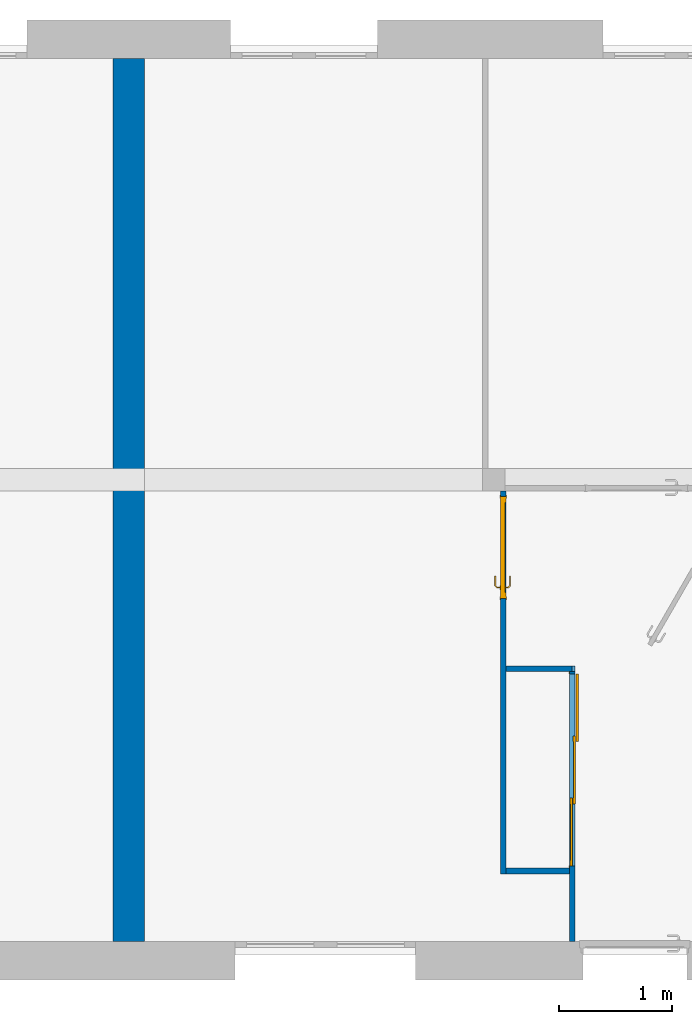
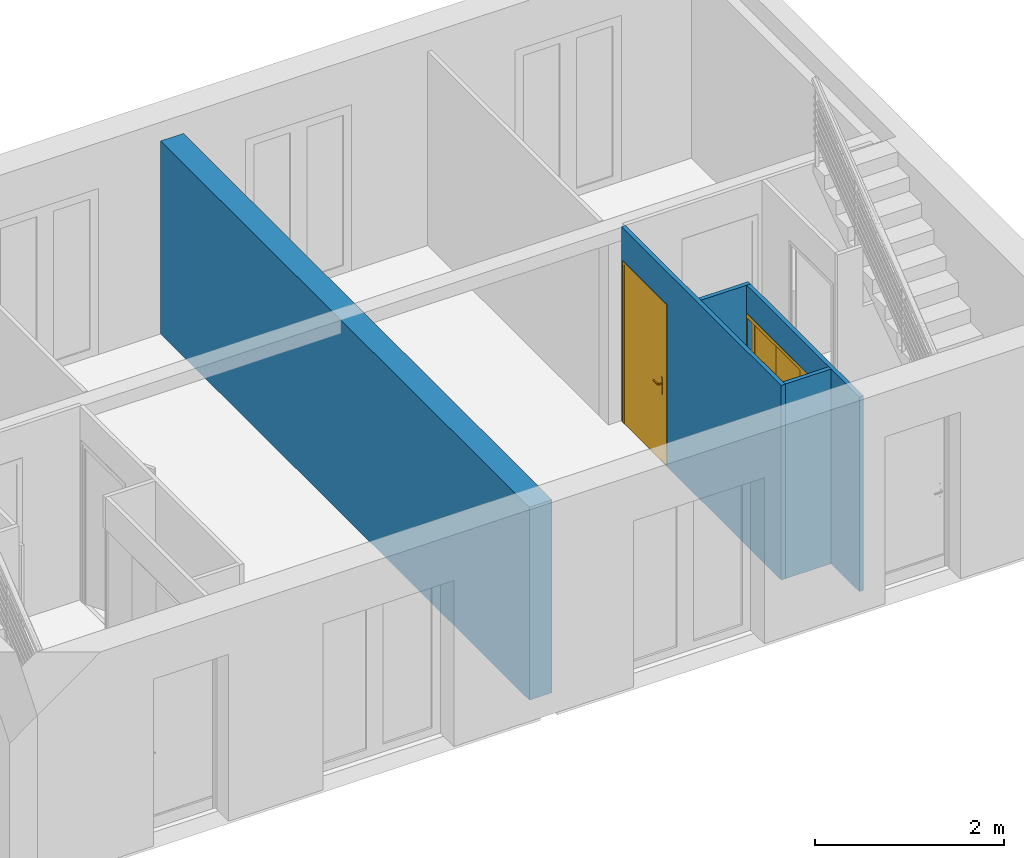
# One storey, part 3 of 9: 5 walls, 2 doors, 3 openings.
"""IFC2X3 building model written with IfcOpenShell, lengths in metres."""

from ifc_helpers import new_model, entity, si_unit, converted_unit, derived_unit, direction, frame, frame_2d, origin, origin_2d_with_axis, place, context, subcontext, project, spatial, polyline, circle_curve, parameter, trimmed, segment, composite_curve, rectangle, outline, extrude, faceted_brep, source, transform, mapped, material, material_list, layer, layer_set, layer_usage, type_object, type_shapes, element, fill, save


model = new_model("IFC2X3")

# Units and contexts
model_context = context("Model", 3, precision=1e-05, world=origin(), true_north=direction((6.12303176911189e-17, 1.0)))
body_context = subcontext(model_context, "Body", "Model", "MODEL_VIEW")
ifc_project = project(units=[si_unit("LENGTHUNIT", "METRE"), si_unit("AREAUNIT", "SQUARE_METRE"), si_unit("VOLUMEUNIT", "CUBIC_METRE"), converted_unit("PLANEANGLEUNIT", "DEGREE", entity("IfcRatioMeasure", 0.0174532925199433), si_unit("PLANEANGLEUNIT", "RADIAN"), dimensions=[0, 0, 0, 0, 0, 0, 0]), si_unit("MASSUNIT", "GRAM", prefix="KILO"), si_unit("TIMEUNIT", "SECOND"), si_unit("FREQUENCYUNIT", "HERTZ"), si_unit("THERMODYNAMICTEMPERATUREUNIT", "DEGREE_CELSIUS"), derived_unit("THERMALTRANSMITTANCEUNIT", [(si_unit("MASSUNIT", "GRAM", prefix="KILO"), 1), (si_unit("THERMODYNAMICTEMPERATUREUNIT", "KELVIN"), -1), (si_unit("TIMEUNIT", "SECOND"), -3)]), derived_unit("VOLUMETRICFLOWRATEUNIT", [(si_unit("LENGTHUNIT", "METRE"), 3), (si_unit("TIMEUNIT", "SECOND"), -1)]), si_unit("ELECTRICCURRENTUNIT", "AMPERE"), si_unit("ELECTRICVOLTAGEUNIT", "VOLT"), si_unit("POWERUNIT", "WATT"), si_unit("FORCEUNIT", "NEWTON", prefix="KILO"), si_unit("ILLUMINANCEUNIT", "LUX"), si_unit("LUMINOUSFLUXUNIT", "LUMEN"), si_unit("LUMINOUSINTENSITYUNIT", "CANDELA"), derived_unit("USERDEFINED", [(si_unit("MASSUNIT", "GRAM", prefix="KILO"), -1), (si_unit("LENGTHUNIT", "METRE"), -2), (si_unit("TIMEUNIT", "SECOND"), 3), (si_unit("LUMINOUSFLUXUNIT", "LUMEN"), 1)]), derived_unit("LINEARVELOCITYUNIT", [(si_unit("LENGTHUNIT", "METRE"), 1), (si_unit("TIMEUNIT", "SECOND"), -1)]), si_unit("PRESSUREUNIT", "PASCAL"), derived_unit("USERDEFINED", [(si_unit("LENGTHUNIT", "METRE"), -2), (si_unit("MASSUNIT", "GRAM", prefix="KILO"), 1), (si_unit("TIMEUNIT", "SECOND"), -2)])], contexts=[model_context])

# Site, building, storey
site_placement = place(None, origin())
site = spatial("IfcSite", under=ifc_project, at=site_placement, Name="Surface", CompositionType="ELEMENT")
building_placement = place(site_placement, origin())
building = spatial("IfcBuilding", under=site, at=building_placement, CompositionType="ELEMENT")
storey_placement = place(building_placement, origin())
storey = spatial("IfcBuildingStorey", under=building, at=storey_placement, Name="Rez de chaussée", CompositionType="ELEMENT", Elevation=0.0)

# Wall, opening
ifc_material_1 = material(Name="Maçonnerie - Isolant(1)")
ifc_layer_1 = layer(ifc_material_1, 0.05)
ifc_layer_set_1 = layer_set([ifc_layer_1], Name="Mur de base:Int. plâtre 50 mm")
ifc_layer_usage_1 = layer_usage(ifc_layer_set_1, "AXIS2", "NEGATIVE", 0.025)
wall_type_1 = type_object("IfcWallType", Name="Mur de base:Int. plâtre 50 mm", PredefinedType="STANDARD", material=ifc_layer_set_1)
wall_1_placement = place(storey_placement, frame((-0.986088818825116, -0.0607442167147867, -0.00999999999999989), z_axis=(0.0, 0.0, 1.0), x_axis=(-1.0, 0.0, 0.0)))
wall_1 = element("IfcWallStandardCase", 1, at=wall_1_placement, inside=storey, type_object=wall_type_1, material=ifc_layer_usage_1, Name="Mur de base:Int. plâtre 50 mm", ObjectType="Mur de base:Int. plâtre 50 mm", context=body_context, shape_type="SweptSolid", body=[
    extrude(rectangle(XDim=0.610000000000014, YDim=0.05, at=frame_2d((0.305000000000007, 5.20417042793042e-18), x_axis=(-1.0, 0.0))), origin(), (0.0, 0.0, 1.0), 2.52),
])
opening_1_placement = place(wall_1_placement, origin())
element("IfcOpeningElement", 2, at=opening_1_placement, cuts=wall_1, Name="Mur de base:Int. plâtre 50 mm", ObjectType="Opening", context=body_context, shape_type="SweptSolid", body=[
    extrude(rectangle(XDim=2.09999999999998, YDim=0.0250000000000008, at=origin_2d_with_axis()), frame((0.0125000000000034, -0.025, 1.05999999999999), z_axis=(0.0, 1.0, 0.0), x_axis=(0.0, 0.0, -1.0)), (0.0, 0.0, 1.0), 0.05),
])

# Wall, opening, door
ifc_layer_usage_2 = layer_usage(ifc_layer_set_1, "AXIS2", "NEGATIVE", 0.025)
wall_2_placement = place(storey_placement, frame((-1.62108881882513, -1.87574421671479, -0.00999999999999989), z_axis=(0.0, 0.0, 1.0), x_axis=(0.0, 1.0, 0.0)))
wall_2 = element("IfcWallStandardCase", 3, at=wall_2_placement, inside=storey, type_object=wall_type_1, material=ifc_layer_usage_2, Name="Mur de base:Int. plâtre 50 mm", ObjectType="Mur de base:Int. plâtre 50 mm", context=body_context, shape_type="SweptSolid", body=[
    extrude(rectangle(XDim=3.39, YDim=0.05, at=frame_2d((1.695, 0.0), x_axis=(-1.0, 0.0))), origin(), (0.0, 0.0, 1.0), 2.52),
])
opening_2_placement = place(wall_2_placement, frame((2.44000000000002, -0.025, 0.00999999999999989)))
opening_2 = element("IfcOpeningElement", 4, at=opening_2_placement, cuts=wall_2, Name="Int. Simple:PP (0.83m x 2.04m):1", ObjectType="Opening", context=body_context, shape_type="SweptSolid", body=[
    extrude(rectangle(XDim=2.075, YDim=0.9, at=frame_2d((1.0375, 0.45), x_axis=(1.0, 0.0))), frame((0.0, 0.0, 0.0), z_axis=(0.0, 1.0, 0.0), x_axis=(0.0, 0.0, 1.0)), (0.0, 0.0, 1.0), 0.05),
])
ifc_material_2 = material(Name="Finition Peinture - Blanc satiné")
ifc_material_3 = material(Name="Bois - Panneau de porte")
ifc_material_4 = material(Name="Bois - Cadre de porte")
ifc_material_list_1 = material_list([ifc_material_2, ifc_material_3, ifc_material_4])
ifc_material_list_2 = material_list([ifc_material_2, ifc_material_3, ifc_material_4])
door_style_1 = type_object("IfcDoorStyle", Name="PP (0.83m x 2.04m)", ConstructionType="NOTDEFINED", OperationType="SINGLE_SWING_RIGHT", ParameterTakesPrecedence=False, Sizeable=False, material=ifc_material_list_2)
shared_shape_1 = source(origin(), body_context, "Body", "Brep", [
    faceted_brep([(0.895000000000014, -0.00500000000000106, 0.870000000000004), (0.895000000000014, -0.00500000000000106, 1.08), (0.885352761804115, -0.00500000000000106, 1.08399601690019), (0.875000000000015, -0.00500000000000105, 1.08535898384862), (0.864647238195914, -0.00500000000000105, 1.08399601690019), (0.855000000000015, -0.00500000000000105, 1.08), (0.855000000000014, -0.00500000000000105, 0.870000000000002), (0.864647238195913, -0.00500000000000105, 0.866003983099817), (0.875000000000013, -0.00500000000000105, 0.86464101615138), (0.885352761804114, -0.00500000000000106, 0.866003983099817), (0.895000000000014, 0.0, 1.08), (0.895000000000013, 0.0, 0.870000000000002), (0.885352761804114, 0.0, 0.866003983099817), (0.875000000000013, 0.0, 0.86464101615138), (0.864647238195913, 0.0, 0.866003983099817), (0.855000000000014, 0.0, 0.870000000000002), (0.855000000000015, 0.0, 1.08), (0.864647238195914, 0.0, 1.08399601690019), (0.875000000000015, 0.0, 1.08535898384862), (0.885352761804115, 0.0, 1.08399601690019)], [[[0, 1, 2, 3, 4, 5, 6, 7, 8, 9]], [[10, 11, 12, 13, 14, 15, 16, 17, 18, 19]], [[9, 12, 11, 0]], [[8, 13, 12, 9]], [[7, 14, 13, 8]], [[7, 6, 15, 14]], [[15, 6, 5, 16]], [[4, 17, 16, 5]], [[3, 18, 17, 4]], [[2, 19, 18, 3]], [[2, 1, 10, 19]], [[11, 10, 1, 0]]]),
    faceted_brep([(0.895000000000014, 0.0399999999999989, 0.870000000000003), (0.895000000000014, 0.0399999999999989, 1.08), (0.885352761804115, 0.0399999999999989, 1.08399601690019), (0.875000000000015, 0.0399999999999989, 1.08535898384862), (0.864647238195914, 0.0399999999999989, 1.08399601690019), (0.855000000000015, 0.0399999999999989, 1.08), (0.855000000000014, 0.0399999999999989, 0.870000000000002), (0.864647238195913, 0.0399999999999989, 0.866003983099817), (0.875000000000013, 0.0399999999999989, 0.86464101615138), (0.885352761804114, 0.0399999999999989, 0.866003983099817), (0.875000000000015, 0.0449999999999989, 1.08535898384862), (0.885352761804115, 0.0449999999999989, 1.08399601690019), (0.895000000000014, 0.0449999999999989, 1.08), (0.895000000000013, 0.0449999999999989, 0.870000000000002), (0.885352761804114, 0.0449999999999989, 0.866003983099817), (0.875000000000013, 0.0449999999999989, 0.86464101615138), (0.864647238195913, 0.0449999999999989, 0.866003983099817), (0.855000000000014, 0.0449999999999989, 0.870000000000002), (0.855000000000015, 0.0449999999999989, 1.08), (0.864647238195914, 0.0449999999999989, 1.08399601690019)], [[[0, 1, 2, 3, 4, 5, 6, 7, 8, 9]], [[10, 11, 12, 13, 14, 15, 16, 17, 18, 19]], [[4, 19, 18, 5]], [[3, 10, 19, 4]], [[2, 11, 10, 3]], [[2, 1, 12, 11]], [[13, 12, 1, 0]], [[9, 14, 13, 0]], [[8, 15, 14, 9]], [[7, 16, 15, 8]], [[7, 6, 17, 16]], [[17, 6, 5, 18]]]),
    faceted_brep([(0.872974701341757, -0.0050000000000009, 1.00778044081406), (0.877025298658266, -0.00500000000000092, 1.00778044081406), (0.881000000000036, -0.00500000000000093, 1.00699999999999), (0.881000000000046, -0.00500000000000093, 0.992999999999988), (0.877025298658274, -0.00500000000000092, 0.99221955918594), (0.872974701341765, -0.0050000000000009, 0.992219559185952), (0.868999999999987, -0.00500000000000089, 0.993000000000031), (0.868999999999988, -0.00500000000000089, 1.007), (0.877025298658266, -0.0310045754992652, 1.00778044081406), (0.881000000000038, -0.0326509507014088, 1.007), (0.872974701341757, -0.0293267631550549, 1.00778044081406), (0.859298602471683, -0.0430028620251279, 1.00778044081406), (0.860976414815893, -0.0470534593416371, 1.00778044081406), (0.868999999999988, -0.0276803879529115, 1.007), (0.868999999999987, -0.0276803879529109, 0.993000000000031), (0.872974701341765, -0.0293267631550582, 0.992219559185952), (0.877025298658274, -0.0310045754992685, 0.99221955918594), (0.860976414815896, -0.047053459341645, 0.99221955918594), (0.859298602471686, -0.0430028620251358, 0.992219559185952), (0.881000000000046, -0.0326509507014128, 0.992999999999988), (0.862622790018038, -0.0510281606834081, 1.007), (0.85765222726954, -0.0390281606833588, 1.007), (0.857652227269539, -0.0390281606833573, 0.993000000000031), (0.862622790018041, -0.0510281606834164, 0.992999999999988), (0.774981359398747, -0.0510281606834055, 1.007), (0.774981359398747, -0.0470534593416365, 1.00778044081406), (0.774981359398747, -0.0430028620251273, 1.00778044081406), (0.774981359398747, -0.0390281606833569, 1.00699999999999), (0.774981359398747, -0.0390281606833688, 0.993000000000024), (0.774981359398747, -0.0430028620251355, 0.992219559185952), (0.774981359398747, -0.0470534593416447, 0.99221955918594), (0.774981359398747, -0.0510281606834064, 0.992999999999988), (0.81713998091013, -0.045028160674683, 1.0078786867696), (0.822692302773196, -0.051028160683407, 1.007), (0.816316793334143, -0.039028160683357, 1.007), (0.816316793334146, -0.0390281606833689, 0.993000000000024), (0.817139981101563, -0.0450281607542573, 0.992121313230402), (0.822692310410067, -0.0510281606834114, 0.992999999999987)], [[[0, 1, 2, 3, 4, 5, 6, 7]], [[2, 1, 8, 9]], [[1, 0, 10, 11, 12, 8]], [[0, 7, 13, 10]], [[14, 13, 7, 6]], [[5, 15, 14, 6]], [[5, 4, 16, 17, 18, 15]], [[3, 19, 16, 4]], [[9, 19, 3, 2]], [[9, 8, 12, 20]], [[10, 13, 21, 11]], [[22, 21, 13, 14]], [[14, 15, 18, 22]], [[16, 19, 23, 17]], [[20, 23, 19, 9]], [[24, 25, 26, 27, 28, 29, 30, 31]], [[32, 25, 33]], [[33, 25, 24]], [[33, 20, 12]], [[11, 34, 32]], [[34, 11, 21]], [[27, 26, 34]], [[32, 26, 25]], [[32, 34, 26]], [[32, 33, 12]], [[11, 32, 12]], [[21, 22, 35, 28, 27, 34]], [[36, 29, 35]], [[30, 36, 37]], [[18, 35, 22]], [[29, 28, 35]], [[30, 37, 31]], [[37, 17, 23]], [[36, 17, 37]], [[36, 18, 17]], [[36, 35, 18]], [[29, 36, 30]], [[23, 20, 33, 24, 31, 37]]]),
    faceted_brep([(0.872974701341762, 0.0449999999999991, 0.992219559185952), (0.877025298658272, 0.0449999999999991, 0.99221955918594), (0.881000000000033, 0.044999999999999, 0.992999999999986), (0.881000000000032, 0.044999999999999, 1.007), (0.877025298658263, 0.0449999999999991, 1.00778044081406), (0.872974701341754, 0.0449999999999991, 1.00778044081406), (0.868999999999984, 0.0449999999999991, 1.007), (0.868999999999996, 0.0449999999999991, 0.993000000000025), (0.868999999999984, 0.067485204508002, 1.007), (0.868999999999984, 0.0674852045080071, 0.993000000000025), (0.872974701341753, 0.0691315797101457, 1.00778044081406), (0.877025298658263, 0.070809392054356, 1.00778044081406), (0.860838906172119, 0.0869957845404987, 1.00778044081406), (0.859161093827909, 0.0829451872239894, 1.00778044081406), (0.881000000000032, 0.0724557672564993, 1.007), (0.881000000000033, 0.0724557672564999, 0.992999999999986), (0.877025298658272, 0.0708093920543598, 0.99221955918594), (0.872974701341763, 0.0691315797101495, 0.992219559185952), (0.859161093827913, 0.0829451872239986, 0.992219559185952), (0.860838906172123, 0.0869957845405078, 0.99221955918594), (0.857514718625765, 0.0789704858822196, 1.007), (0.857514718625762, 0.0789704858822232, 0.993000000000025), (0.862485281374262, 0.0909704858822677, 1.007), (0.862485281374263, 0.0909704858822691, 0.992999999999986), (0.77495421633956, 0.0829451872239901, 1.00778044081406), (0.77495421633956, 0.0869957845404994, 1.00778044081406), (0.77495421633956, 0.0909704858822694, 1.007), (0.77495421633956, 0.0909704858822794, 0.992999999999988), (0.77495421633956, 0.086995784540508, 0.99221955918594), (0.77495421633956, 0.0829451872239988, 0.992219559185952), (0.77495421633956, 0.0789704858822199, 0.993000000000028), (0.77495421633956, 0.0789704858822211, 1.007), (0.816234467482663, 0.0789704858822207, 1.007), (0.816234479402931, 0.0789704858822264, 0.993000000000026), (0.817057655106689, 0.0849704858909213, 1.0078786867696), (0.822554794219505, 0.0909704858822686, 1.007), (0.822554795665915, 0.0909704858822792, 0.992999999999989), (0.817057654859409, 0.0849704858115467, 0.992121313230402)], [[[0, 1, 2, 3, 4, 5, 6, 7]], [[8, 9, 7, 6]], [[5, 10, 8, 6]], [[5, 4, 11, 12, 13, 10]], [[3, 14, 11, 4]], [[14, 3, 2, 15]], [[2, 1, 16, 15]], [[1, 0, 17, 18, 19, 16]], [[0, 7, 9, 17]], [[20, 21, 9, 8]], [[8, 10, 13, 20]], [[14, 22, 12, 11]], [[23, 22, 14, 15]], [[15, 16, 19, 23]], [[17, 9, 21, 18]], [[24, 25, 26, 27, 28, 29, 30, 31]], [[21, 20, 32, 31, 30, 33]], [[34, 24, 32]], [[25, 34, 35]], [[13, 32, 20]], [[24, 31, 32]], [[25, 35, 26]], [[35, 12, 22]], [[34, 12, 35]], [[34, 13, 12]], [[34, 32, 13]], [[24, 34, 25]], [[22, 23, 36, 27, 26, 35]], [[37, 28, 36]], [[36, 28, 27]], [[36, 23, 19]], [[18, 33, 37]], [[33, 18, 21]], [[30, 29, 33]], [[37, 29, 28]], [[37, 33, 29]], [[37, 36, 19]], [[18, 37, 19]]]),
    faceted_brep([(0.935000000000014, 0.04, 2.04), (0.935000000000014, 0.04, 0.0), (0.105000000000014, 0.04, 0.0), (0.105000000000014, 0.04, 2.04), (0.935000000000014, 0.0, 2.04), (0.105000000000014, 0.0, 2.04), (0.105000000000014, 0.0, 0.0), (0.935000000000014, 0.0, 0.0)], [[[0, 1, 2, 3]], [[4, 5, 6, 7]], [[3, 5, 4, 0]], [[2, 6, 5, 3]], [[1, 7, 6, 2]], [[0, 4, 7, 1]]]),
    faceted_brep([(0.970000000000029, 0.0, 0.0), (0.935000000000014, 0.0, 0.0), (0.935000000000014, 0.040000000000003, 0.0), (0.920000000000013, 0.040000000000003, 0.0), (0.920000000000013, 0.050000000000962, 0.0), (0.970000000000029, 0.050000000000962, 0.0), (0.970000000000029, 0.050000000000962, 2.07500000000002), (0.970000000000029, 0.0, 2.07500000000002), (0.920000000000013, 0.050000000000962, 2.025), (0.120000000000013, 0.050000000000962, 2.025), (0.120000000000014, 0.050000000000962, 0.0), (0.0699999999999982, 0.050000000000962, 0.0), (0.0699999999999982, 0.050000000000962, 2.07500000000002), (0.920000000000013, 0.040000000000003, 2.025), (0.935000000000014, 0.040000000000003, 2.04), (0.105000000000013, 0.040000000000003, 2.04), (0.105000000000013, 0.040000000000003, 0.0), (0.120000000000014, 0.040000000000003, 0.0), (0.120000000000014, 0.040000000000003, 2.025), (0.935000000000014, 0.0, 2.04), (0.069999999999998, 0.0, 2.07500000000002), (0.0699999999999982, 0.0, 0.0), (0.105000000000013, 0.0, 0.0), (0.105000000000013, 0.0, 2.04)], [[[0, 1, 2, 3, 4, 5]], [[5, 6, 7, 0]], [[4, 8, 9, 10, 11, 12, 6, 5]], [[3, 13, 8, 4]], [[2, 14, 15, 16, 17, 18, 13, 3]], [[1, 19, 14, 2]], [[0, 7, 20, 21, 22, 23, 19, 1]], [[12, 11, 21, 20]], [[21, 11, 10, 17, 16, 22]], [[18, 17, 10, 9]], [[23, 22, 16, 15]], [[6, 12, 20, 7]], [[13, 18, 9, 8]], [[19, 23, 15, 14]]]),
    faceted_brep([(0.955000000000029, 0.050000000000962, 0.0), (0.955000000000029, 0.055000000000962, 0.0), (0.985000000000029, 0.055000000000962, 0.0), (0.985000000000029, 0.050000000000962, 0.0), (0.985000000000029, 0.050000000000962, 2.09000000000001), (0.0550000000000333, 0.050000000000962, 2.09000000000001), (0.0550000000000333, 0.050000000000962, 0.0), (0.0850000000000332, 0.050000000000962, 0.0), (0.0850000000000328, 0.050000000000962, 2.06000000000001), (0.955000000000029, 0.050000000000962, 2.06000000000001), (0.985000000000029, 0.055000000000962, 2.09000000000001), (0.955000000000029, 0.055000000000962, 2.06000000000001), (0.0850000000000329, 0.055000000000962, 2.06000000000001), (0.0850000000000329, 0.055000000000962, 0.0), (0.055000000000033, 0.055000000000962, 0.0), (0.0550000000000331, 0.055000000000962, 2.09000000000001)], [[[0, 1, 2, 3]], [[3, 4, 5, 6, 7, 8, 9, 0]], [[2, 10, 4, 3]], [[1, 11, 12, 13, 14, 15, 10, 2]], [[0, 9, 11, 1]], [[7, 6, 14, 13]], [[8, 7, 13, 12]], [[15, 14, 6, 5]], [[10, 15, 5, 4]], [[9, 8, 12, 11]]]),
    faceted_brep([(0.985000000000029, -0.005, 0.0), (0.985000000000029, -0.005, 2.09000000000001), (0.0550000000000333, -0.005, 2.09000000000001), (0.0550000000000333, -0.005, 0.0), (0.0850000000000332, -0.005, 0.0), (0.0850000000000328, -0.005, 2.06000000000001), (0.955000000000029, -0.005, 2.06000000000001), (0.955000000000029, -0.005, 0.0), (0.985000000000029, 0.0, 0.0), (0.985000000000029, 0.0, 2.09000000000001), (0.955000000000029, 0.0, 0.0), (0.955000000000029, 0.0, 2.06000000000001), (0.0850000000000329, 0.0, 2.06000000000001), (0.0850000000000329, 0.0, 0.0), (0.055000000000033, 0.0, 0.0), (0.0550000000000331, 0.0, 2.09000000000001)], [[[0, 1, 2, 3, 4, 5, 6, 7]], [[8, 9, 1, 0]], [[10, 11, 12, 13, 14, 15, 9, 8]], [[7, 6, 11, 10]], [[5, 4, 13, 12]], [[15, 14, 3, 2]], [[9, 15, 2, 1]], [[6, 5, 12, 11]], [[4, 3, 14, 13]], [[7, 10, 8, 0]]]),
])
type_shapes(door_style_1, [shared_shape_1])
door_1_placement = place(opening_2_placement, frame((0.970000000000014, 0.05, 0.0), z_axis=(0.0, 0.0, 1.0), x_axis=(-1.0, 0.0, 0.0)))
door_1 = element("IfcDoor", 5, at=door_1_placement, inside=storey, type_object=door_style_1, material=ifc_material_list_1, Name="Int. Simple:PP (0.83m x 2.04m)", ObjectType="PP (0.83m x 2.04m)", OverallHeight=2.075, OverallWidth=0.9, context=body_context, shape_type="MappedRepresentation", body=[
    mapped(shared_shape_1, transform((0.0, 0.0, 0.0), scale=1.0)),
])
fill(opening_2, door_1)

# Wall
ifc_layer_usage_3 = layer_usage(ifc_layer_set_1, "AXIS2", "NEGATIVE", 0.025)
wall_3_placement = place(storey_placement, frame((-1.03608881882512, -1.85074421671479, -0.00999999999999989), z_axis=(0.0, 0.0, 1.0), x_axis=(-1.0, 0.0, 0.0)))
element("IfcWallStandardCase", 6, at=wall_3_placement, inside=storey, type_object=wall_type_1, material=ifc_layer_usage_3, Name="Mur de base:Int. plâtre 50 mm", ObjectType="Mur de base:Int. plâtre 50 mm", context=body_context, shape_type="SweptSolid", body=[
    extrude(rectangle(XDim=0.56000000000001, YDim=0.05, at=frame_2d((0.280000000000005, 0.0), x_axis=(-1.0, 0.0))), origin(), (0.0, 0.0, 1.0), 2.52),
])

# Wall, opening, door
ifc_layer_usage_4 = layer_usage(ifc_layer_set_1, "AXIS2", "NEGATIVE", 0.025)
wall_4_placement = place(storey_placement, frame((-1.01108881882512, -2.47574421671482, -0.00999999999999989), z_axis=(0.0, 0.0, 1.0), x_axis=(0.0, 1.0, 0.0)))
wall_4 = element("IfcWallStandardCase", 7, at=wall_4_placement, inside=storey, type_object=wall_type_1, material=ifc_layer_usage_4, Name="Mur de base:Int. plâtre 50 mm", ObjectType="Mur de base:Int. plâtre 50 mm", context=body_context, shape_type="SweptSolid", body=[
    extrude(rectangle(XDim=2.39000000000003, YDim=0.05, at=frame_2d((1.19500000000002, 0.0), x_axis=(-1.0, 0.0))), origin(), (0.0, 0.0, 1.0), 2.52),
])
opening_3_placement = place(wall_4_placement, frame((0.670000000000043, -0.025, 0.00999999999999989)))
opening_3 = element("IfcOpeningElement", 8, at=opening_3_placement, cuts=wall_4, Name="Placard coulissante - 3 panneaux:Placard coulissante - 3 panneaux:1", ObjectType="Opening", context=body_context, shape_type="SweptSolid", body=[
    extrude(rectangle(XDim=2.09999999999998, YDim=1.7, at=frame_2d((1.04999999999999, 0.85), x_axis=(1.0, 0.0))), frame((0.0, 0.0, 0.0), z_axis=(0.0, 1.0, 0.0), x_axis=(0.0, 0.0, 1.0)), (0.0, 0.0, 1.0), 0.05),
])
ifc_material_5 = material(Name="Placard - Profil")
ifc_material_6 = material(Name="Placard - Encadrement")
ifc_material_7 = material(Name="Placard - Porte")
ifc_material_list_3 = material_list([ifc_material_5, ifc_material_6, ifc_material_7])
ifc_material_list_4 = material_list([ifc_material_5, ifc_material_6, ifc_material_7])
door_style_2 = type_object("IfcDoorStyle", Name="Placard coulissante - 3 panneaux", ConstructionType="NOTDEFINED", OperationType="SLIDING_TO_RIGHT", ParameterTakesPrecedence=False, Sizeable=False, material=ifc_material_list_4)
shared_shape_2 = source(origin(), body_context, "Body", "SweptSolid", [
    extrude(outline(composite_curve([segment(polyline([(-0.0250000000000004, -0.00100000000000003), (0.0249999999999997, -0.00100000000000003)]), True, "CONTINUOUS"), segment(polyline([(0.0249999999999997, -0.00100000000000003), (0.0249999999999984, 0.00100000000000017)]), True, "CONTINUOUS"), segment(trimmed(circle_curve(frame_2d((0.0, -0.212860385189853), x_axis=(-1.0, 0.0)), 0.215316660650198), [parameter(263.332459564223)], [parameter(276.667540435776)], True, "PARAMETER"), True, "CONTINUOUS"), segment(polyline([(-0.0250000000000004, 0.00100000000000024), (-0.0250000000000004, -0.00100000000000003)]), True, "CONTINUOUS")], self_intersect=False)), frame((1.675, 0.00899999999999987, 0.0), z_axis=(0.0, 0.0, 1.0), x_axis=(-1.0, 0.0, 0.0)), (0.0, 0.0, 1.0), 2.1),
    extrude(outline(composite_curve([segment(polyline([(-0.0250000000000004, -0.00100000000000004), (0.0249999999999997, -0.00100000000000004)]), True, "CONTINUOUS"), segment(polyline([(0.0249999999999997, -0.00100000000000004), (0.0249999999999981, 0.00100000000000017)]), True, "CONTINUOUS"), segment(trimmed(circle_curve(frame_2d((0.0, -0.212860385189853), x_axis=(-1.0, 0.0)), 0.215316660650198), [parameter(263.332459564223)], [parameter(276.667540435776)], True, "PARAMETER"), True, "CONTINUOUS"), segment(polyline([(-0.0250000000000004, 0.00100000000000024), (-0.0250000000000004, -0.00100000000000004)]), True, "CONTINUOUS")], self_intersect=False)), frame((1.125, 0.00900000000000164, 0.0), z_axis=(0.0, 0.0, 1.0), x_axis=(-1.0, 0.0, 0.0)), (0.0, 0.0, 1.0), 2.1),
    extrude(outline(composite_curve([segment(polyline([(-0.0250000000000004, -0.00100000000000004), (0.0249999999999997, -0.00100000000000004)]), True, "CONTINUOUS"), segment(polyline([(0.0249999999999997, -0.00100000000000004), (0.0249999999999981, 0.00100000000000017)]), True, "CONTINUOUS"), segment(trimmed(circle_curve(frame_2d((0.0, -0.212860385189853), x_axis=(-1.0, 0.0)), 0.215316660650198), [parameter(263.332459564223)], [parameter(276.667540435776)], True, "PARAMETER"), True, "CONTINUOUS"), segment(polyline([(-0.0250000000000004, 0.00100000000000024), (-0.0250000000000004, -0.00100000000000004)]), True, "CONTINUOUS")], self_intersect=False)), frame((1.125, 0.0340000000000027, 0.0), z_axis=(0.0, 0.0, 1.0), x_axis=(-1.0, 0.0, 0.0)), (0.0, 0.0, 1.0), 2.1),
    extrude(outline(composite_curve([segment(polyline([(-0.0250000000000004, -0.00100000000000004), (0.0249999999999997, -0.00100000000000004)]), True, "CONTINUOUS"), segment(polyline([(0.0249999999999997, -0.00100000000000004), (0.0249999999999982, 0.00100000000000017)]), True, "CONTINUOUS"), segment(trimmed(circle_curve(frame_2d((0.0, -0.212860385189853), x_axis=(-1.0, 0.0)), 0.215316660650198), [parameter(263.332459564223)], [parameter(276.667540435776)], True, "PARAMETER"), True, "CONTINUOUS"), segment(polyline([(-0.0250000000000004, 0.00100000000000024), (-0.0250000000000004, -0.00100000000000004)]), True, "CONTINUOUS")], self_intersect=False)), frame((0.575000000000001, 0.0340000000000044, 0.0), z_axis=(0.0, 0.0, 1.0), x_axis=(-1.0, 0.0, 0.0)), (0.0, 0.0, 1.0), 2.1),
    extrude(outline(composite_curve([segment(polyline([(-0.0250000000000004, -0.00100000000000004), (0.0249999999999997, -0.00100000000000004)]), True, "CONTINUOUS"), segment(polyline([(0.0249999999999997, -0.00100000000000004), (0.0249999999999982, 0.00100000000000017)]), True, "CONTINUOUS"), segment(trimmed(circle_curve(frame_2d((0.0, -0.212860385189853), x_axis=(-1.0, 0.0)), 0.215316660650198), [parameter(263.332459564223)], [parameter(276.667540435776)], True, "PARAMETER"), True, "CONTINUOUS"), segment(polyline([(-0.0250000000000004, 0.00100000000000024), (-0.0250000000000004, -0.00100000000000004)]), True, "CONTINUOUS")], self_intersect=False)), frame((0.575000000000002, 0.0590000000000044, 0.0), z_axis=(0.0, 0.0, 1.0), x_axis=(-1.0, 0.0, 0.0)), (0.0, 0.0, 1.0), 2.1),
    extrude(outline(composite_curve([segment(polyline([(-0.0250000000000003, -0.00100000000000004), (0.0249999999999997, -0.00100000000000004)]), True, "CONTINUOUS"), segment(polyline([(0.0249999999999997, -0.00100000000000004), (0.0249999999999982, 0.00100000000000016)]), True, "CONTINUOUS"), segment(trimmed(circle_curve(frame_2d((0.0, -0.212860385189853), x_axis=(-1.0, 0.0)), 0.215316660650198), [parameter(263.332459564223)], [parameter(276.667540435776)], True, "PARAMETER"), True, "CONTINUOUS"), segment(polyline([(-0.0250000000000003, 0.00100000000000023), (-0.0250000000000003, -0.00100000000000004)]), True, "CONTINUOUS")], self_intersect=False)), frame((0.0249999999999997, 0.0590000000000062, 0.0), z_axis=(0.0, 0.0, 1.0), x_axis=(-1.0, 0.0, 0.0)), (0.0, 0.0, 1.0), 2.1),
    extrude(outline(polyline([(-1.06149999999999, -0.898), (1.08649999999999, -0.898), (1.08649999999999, 0.898), (-1.06149999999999, 0.898), (-1.06149999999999, 0.848), (1.03649999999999, 0.848), (1.03649999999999, -0.848), (-1.06149999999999, -0.848), (-1.06149999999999, -0.898)])), frame((0.85, -0.003, 1.06149999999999), z_axis=(0.0, 1.0, 0.0), x_axis=(0.0, 0.0, 1.0)), (0.0, 0.0, 1.0), 0.003),
    extrude(rectangle(XDim=0.020000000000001, YDim=0.6, at=origin_2d_with_axis()), frame((1.4, 0.0200000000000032, 0.0), z_axis=(0.0, 0.0, 1.0), x_axis=(0.0, 1.0, 0.0)), (0.0, 0.0, 1.0), 2.1),
    extrude(rectangle(XDim=0.600000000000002, YDim=0.02, at=origin_2d_with_axis()), frame((0.300000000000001, 0.0700000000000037, 0.0), z_axis=(0.0, 0.0, 1.0), x_axis=(-1.0, 0.0, 0.0)), (0.0, 0.0, 1.0), 2.1),
    extrude(rectangle(XDim=0.02, YDim=0.599999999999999, at=frame_2d((0.0, -2.77555756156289e-17), x_axis=(1.0, 0.0))), frame((0.85, 0.0450000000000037, 0.0), z_axis=(0.0, 0.0, 1.0), x_axis=(0.0, 1.0, 0.0)), (0.0, 0.0, 1.0), 2.1),
])
type_shapes(door_style_2, [shared_shape_2])
door_2_placement = place(opening_3_placement, frame((1.7, 0.0499999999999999, 0.0), z_axis=(0.0, 0.0, 1.0), x_axis=(-1.0, 0.0, 0.0)))
door_2 = element("IfcDoor", 9, at=door_2_placement, inside=storey, type_object=door_style_2, material=ifc_material_list_3, Name="Placard coulissante - 3 panneaux:Placard coulissante - 3 panneaux", ObjectType="Placard coulissante - 3 panneaux", OverallHeight=2.09999999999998, OverallWidth=1.7, context=body_context, shape_type="MappedRepresentation", body=[
    mapped(shared_shape_2, transform((0.0, 0.0, 0.0), scale=1.0)),
])
fill(opening_3, door_2)

# Wall
ifc_material_8 = material(Name="Maçonnerie - Isolant 1")
ifc_layer_2 = layer(ifc_material_8, 0.01)
ifc_material_9 = material(Name="Maçonnerie - Bloc de béton (2)")
ifc_layer_3 = layer(ifc_material_9, 0.2)
ifc_material_10 = material(Name="Maçonnerie - Isolant")
ifc_layer_4 = layer(ifc_material_10, 0.06)
ifc_layer_5 = layer(ifc_material_8, 0.01)
ifc_layer_set_2 = layer_set([ifc_layer_2, ifc_layer_3, ifc_layer_4, ifc_layer_5], Name="Mur de base:Mur de base Refend Ext. Parpaing 20 + Isolant 7")
ifc_layer_usage_5 = layer_usage(ifc_layer_set_2, "AXIS2", "NEGATIVE", 0.14)
wall_type_2 = type_object("IfcWallType", Name="Mur de base:Mur de base Refend Ext. Parpaing 20 + Isolant 7", PredefinedType="STANDARD", material=ifc_layer_set_2)
wall_5_placement = place(storey_placement, frame((-4.93608881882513, 5.34425578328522, 0.0), z_axis=(0.0, 0.0, 1.0), x_axis=(0.0, -1.0, 0.0)))
element("IfcWallStandardCase", 10, at=wall_5_placement, inside=storey, type_object=wall_type_2, material=ifc_layer_usage_5, Name="Mur de base:Mur de base Refend Ext. Parpaing 20 + Isolant 7", ObjectType="Mur de base:Mur de base Refend Ext. Parpaing 20 + Isolant 7", context=body_context, shape_type="SweptSolid", body=[
    extrude(rectangle(XDim=7.82000000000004, YDim=0.28, at=frame_2d((3.91000000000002, 2.77555756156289e-16), x_axis=(-1.0, 0.0))), origin(), (0.0, 0.0, 1.0), 2.498),
])

save(model, "model.ifc")
